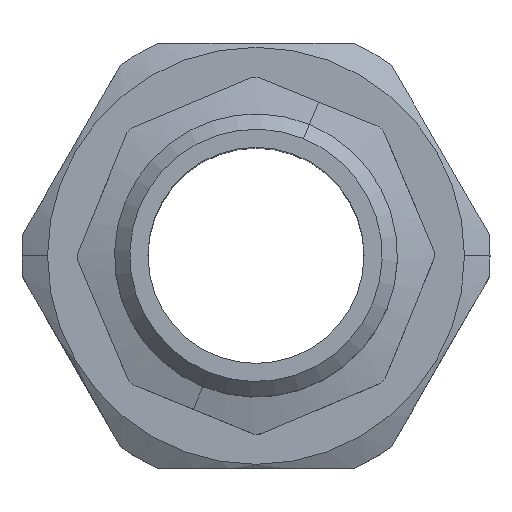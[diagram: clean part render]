
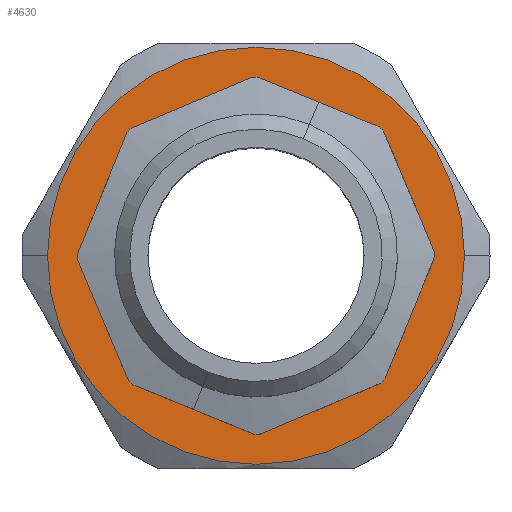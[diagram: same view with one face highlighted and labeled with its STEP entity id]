
A CAD part, top view. The second image highlights one B-rep face of the part: STEP entity #4630.
In plain terms, the highlighted planar face has unit normal (0, 0, 1).
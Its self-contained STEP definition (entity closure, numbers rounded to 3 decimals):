
#4280=CARTESIAN_POINT('',(185.245,64.829,-144.302));
#4290=DIRECTION('',(0.,0.,-1.));
#4300=DIRECTION('',(1.,0.,0.));
#4310=AXIS2_PLACEMENT_3D('',#4280,#4290,#4300);
#4320=PLANE('',#4310);
#4330=CARTESIAN_POINT('',(158.911,64.829,
-144.302));
#4340=DIRECTION('',(0.,0.,-1.));
#4350=DIRECTION('',(0.377,0.926,
0.));
#4360=AXIS2_PLACEMENT_3D('',#4330,#4340,#4350);
#4370=CIRCLE('',#4360,18.85);
#4380=CARTESIAN_POINT('',(166.015,82.289,
-144.302));
#4390=VERTEX_POINT('',#4380);
#4400=CARTESIAN_POINT('',(151.806,47.369,
-144.302));
#4410=VERTEX_POINT('',#4400);
#4420=EDGE_CURVE('',#4390,#4410,#4370,.T.);
#4430=ORIENTED_EDGE('',*,*,#4420,.T.);
#4440=EDGE_CURVE('',#4410,#4390,#4370,.T.);
#4450=ORIENTED_EDGE('',*,*,#4440,.T.);
#4460=EDGE_LOOP('',(#4450,#4430));
#4470=FACE_BOUND('',#4460,.T.);
#4480=CARTESIAN_POINT('',(158.911,64.829,-144.302));
#4490=DIRECTION('',(0.,0.,-1.));
#4500=DIRECTION('',(-1.,0.,0.));
#4510=AXIS2_PLACEMENT_3D('',#4480,#4490,#4500);
#4520=CIRCLE('',#4510,24.5);
#4530=CARTESIAN_POINT('',(134.411,64.829,-144.302));
#4540=VERTEX_POINT('',#4530);
#4550=CARTESIAN_POINT('',(183.411,64.829,-144.302));
#4560=VERTEX_POINT('',#4550);
#4570=EDGE_CURVE('',#4540,#4560,#4520,.T.);
#4580=ORIENTED_EDGE('',*,*,#4570,.F.);
#4590=EDGE_CURVE('',#4560,#4540,#4520,.T.);
#4600=ORIENTED_EDGE('',*,*,#4590,.F.);
#4610=EDGE_LOOP('',(#4600,#4580));
#4620=FACE_OUTER_BOUND('',#4610,.T.);
#4630=ADVANCED_FACE('',(#4470,#4620),#4320,.F.);
